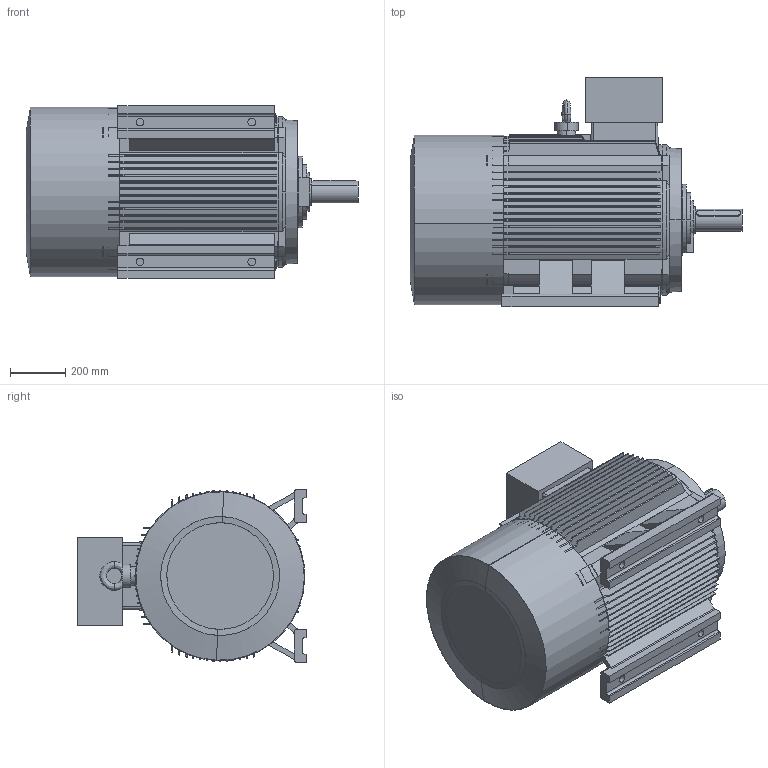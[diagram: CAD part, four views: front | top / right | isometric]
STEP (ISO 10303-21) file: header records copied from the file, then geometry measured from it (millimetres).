
FILE_DESCRIPTION (( 'STEP AP203' ), '1' );
FILE_NAME ('M3-315S-4p-FF-B3.STEP', '2019-07-16T09:41:12', ( '' ), ( '' ), 'SwSTEP 2.0', 'SolidWorks 2012', '' );
FILE_SCHEMA (( 'CONFIG_CONTROL_DESIGN' ));
Length unit declared in the file: millimetre
Products named in the file (7): M3-315S-4p-FF-B3; +ｷﾎｨB3-315S_-ｼ+､; Y2-315M-4Íß¦ð-Ô©Ã_-¼+¤; Y2-315M-4ﾍﾟ_-ｼ+､; Y2-315-4ﾃｦﾂ-ｩﾃ_-ｼ+､; 315ﾁｧ+ﾀ_-ｼ+､; Y2-315-2.4..6.8ﾀiﾍ_-ｼ+､
Assembly tree (6 placements, depth 2):
  M3-315S-4p-FF-B3
    Y2-315-2.4..6.8ﾀiﾍ_-ｼ+､
    Y2-315M-4ﾍﾟ_-ｼ+､
    315ﾁｧ+ﾀ_-ｼ+､
    Y2-315-4ﾃｦﾂ-ｩﾃ_-ｼ+､
    Y2-315M-4Íß¦ð-Ô©Ã_-¼+¤
    +ｷﾎｨB3-315S_-ｼ+､
Bounding box: 1206 x 834 x 628 mm (x, y, z)
Volume: 65753327.5 mm3; surface area: 8329008.5 mm2
Topology: 6 solids, 10 shells, 719 faces, 2028 edges, 1339 vertices
Faces by surface type: plane 328, cylinder 234, cone 88, bspline 69
Entity records: 29815 total; most frequent: CARTESIAN_POINT 11094, ORIENTED_EDGE 4056, DIRECTION 3384, EDGE_CURVE 2028, VERTEX_POINT 1339, AXIS2_PLACEMENT_3D 1245, VECTOR 894, LINE 894
